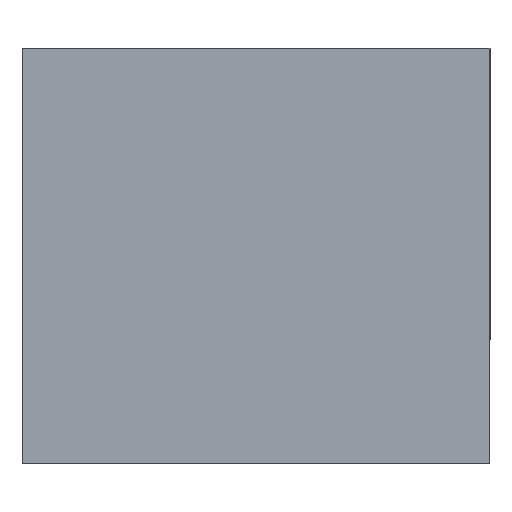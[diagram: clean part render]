
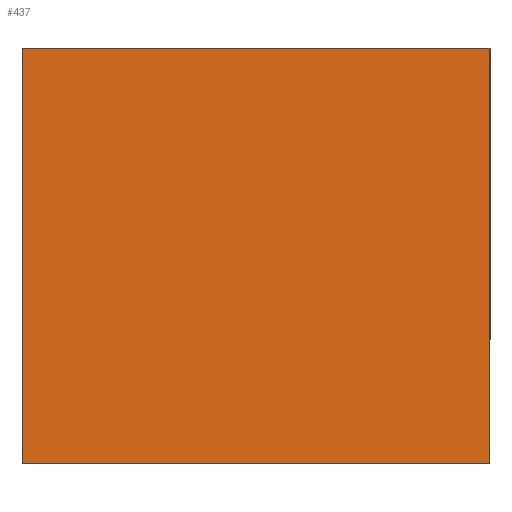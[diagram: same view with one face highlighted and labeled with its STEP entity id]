
A CAD part, front view. The second image highlights one B-rep face of the part: STEP entity #437.
In plain terms, the highlighted planar face has unit normal (0, -1, 0).
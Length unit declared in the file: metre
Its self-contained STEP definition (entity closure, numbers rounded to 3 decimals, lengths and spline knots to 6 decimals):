
#106=ORIENTED_EDGE('',*,*,#177,.F.);
#107=ORIENTED_EDGE('',*,*,#188,.T.);
#108=ORIENTED_EDGE('',*,*,#189,.T.);
#109=ORIENTED_EDGE('',*,*,#190,.T.);
#177=EDGE_CURVE('',#225,#226,#265,.T.);
#188=EDGE_CURVE('',#225,#231,#276,.T.);
#189=EDGE_CURVE('',#231,#232,#277,.T.);
#190=EDGE_CURVE('',#232,#226,#278,.T.);
#225=VERTEX_POINT('',#802);
#226=VERTEX_POINT('',#804);
#231=VERTEX_POINT('',#824);
#232=VERTEX_POINT('',#828);
#265=LINE('',#803,#314);
#276=LINE('',#825,#325);
#277=LINE('',#827,#326);
#278=LINE('',#829,#327);
#314=VECTOR('',#683,1.);
#325=VECTOR('',#704,1.);
#326=VECTOR('',#707,1.);
#327=VECTOR('',#708,1.);
#351=EDGE_LOOP('',(#106,#107,#108,#109));
#374=FACE_BOUND('',#351,.T.);
#394=PLANE('',#606);
#437=ADVANCED_FACE('',(#374),#394,.F.);
#606=AXIS2_PLACEMENT_3D('',#826,#705,#706);
#683=DIRECTION('',(1.,0.,0.));
#704=DIRECTION('',(0.,0.,-1.));
#705=DIRECTION('',(0.,1.,0.));
#706=DIRECTION('',(0.,0.,1.));
#707=DIRECTION('',(1.,0.,0.));
#708=DIRECTION('',(0.,0.,1.));
#802=CARTESIAN_POINT('',(0.133212,-0.09565,0.009345));
#803=CARTESIAN_POINT('',(0.135012,-0.09565,0.009345));
#804=CARTESIAN_POINT('',(0.136812,-0.09565,0.009345));
#824=CARTESIAN_POINT('',(0.133212,-0.09565,0.006145));
#825=CARTESIAN_POINT('',(0.133212,-0.09565,0.007745));
#826=CARTESIAN_POINT('',(0.138212,-0.09565,0.006845));
#827=CARTESIAN_POINT('',(0.135012,-0.09565,0.006145));
#828=CARTESIAN_POINT('',(0.136812,-0.09565,0.006145));
#829=CARTESIAN_POINT('',(0.136812,-0.09565,0.007745));
